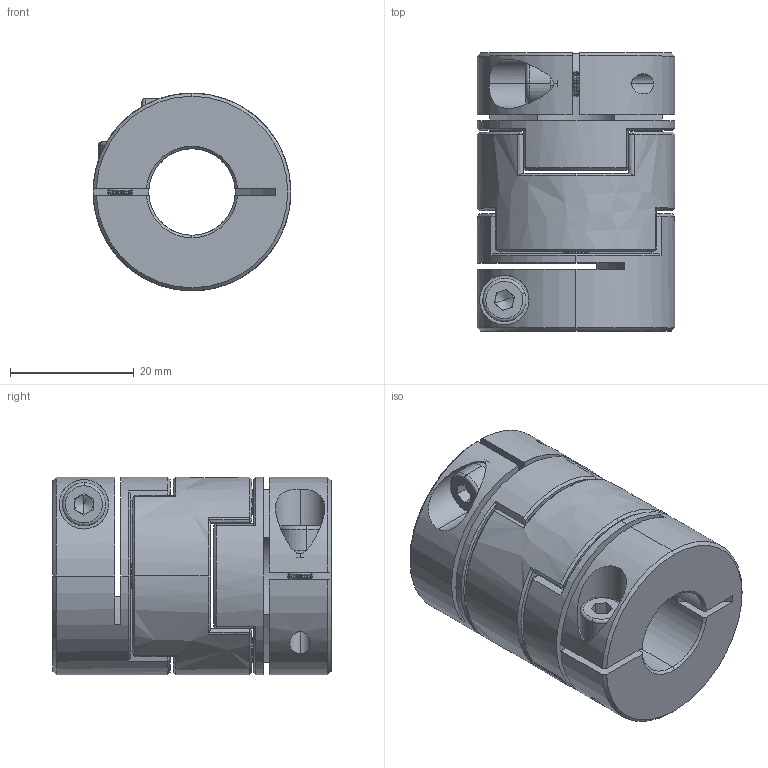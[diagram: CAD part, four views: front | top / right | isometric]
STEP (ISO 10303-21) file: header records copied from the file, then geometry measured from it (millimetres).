
FILE_DESCRIPTION (( 'STEP AP203' ), '1' );
FILE_NAME ('LZ-B-D32L45-14-14.STEP', '2021-10-29T06:48:43', ( '' ), ( '' ), 'SwSTEP 2.0', 'SolidWorks 2018', '' );
FILE_SCHEMA (( 'CONFIG_CONTROL_DESIGN' ));
Length unit declared in the file: millimetre
Products named in the file (1): LZ-B-D32L45-14-14
Bounding box: 32 x 45 x 32 mm (x, y, z)
Volume: 26657.4 mm3; surface area: 13015.2 mm2
Topology: 1 solids, 1 shells, 356 faces, 856 edges, 498 vertices
Faces by surface type: cone 118, cylinder 92, plane 84, bspline 54, torus 8
Entity records: 11145 total; most frequent: CARTESIAN_POINT 3197, ORIENTED_EDGE 1704, DIRECTION 1578, EDGE_CURVE 852, AXIS2_PLACEMENT_3D 619, VERTEX_POINT 498, EDGE_LOOP 382, ADVANCED_FACE 356
